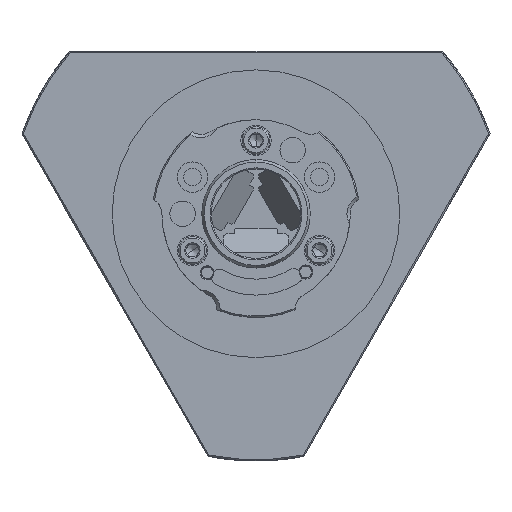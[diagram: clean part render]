
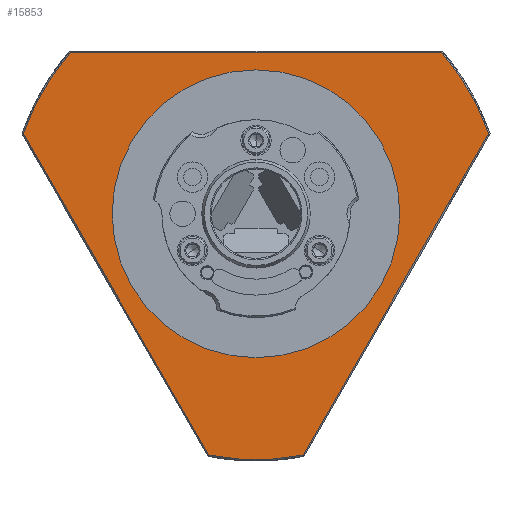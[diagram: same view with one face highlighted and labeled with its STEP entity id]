
A CAD part, front view. The second image highlights one B-rep face of the part: STEP entity #15853.
In plain terms, the highlighted planar face has unit normal (0, -1, 0).
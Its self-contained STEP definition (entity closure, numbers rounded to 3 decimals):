
#140 = CARTESIAN_POINT ( 'NONE',  ( -63.35, -24.5, 8.525 ) ) ;
#591 = CIRCLE ( 'NONE', #50512, 77.1 ) ;
#2203 = ORIENTED_EDGE ( 'NONE', *, *, #44710, .T. ) ;
#3235 = VERTEX_POINT ( 'NONE', #12110 ) ;
#4187 = DIRECTION ( 'NONE',  ( 0., 0., 1. ) ) ;
#4307 = EDGE_CURVE ( 'NONE', #39102, #49068, #13404, .T. ) ;
#5121 = CIRCLE ( 'NONE', #39866, 45.1 ) ;
#5229 = CARTESIAN_POINT ( 'NONE',  ( 63.35, -24.5, 8.525 ) ) ;
#5715 = EDGE_LOOP ( 'NONE', ( #28989, #7595, #30579, #2203, #22949, #34343 ) ) ;
#6118 = CIRCLE ( 'NONE', #20386, 77.1 ) ;
#6225 = DIRECTION ( 'NONE',  ( 0., 0., -1. ) ) ;
#6665 = EDGE_CURVE ( 'NONE', #50995, #3235, #5121, .T. ) ;
#6782 = FACE_OUTER_BOUND ( 'NONE', #5715, .T. ) ;
#7578 = DIRECTION ( 'NONE',  ( 0., 1., 0. ) ) ;
#7595 = ORIENTED_EDGE ( 'NONE', *, *, #41714, .T. ) ;
#8162 = EDGE_CURVE ( 'NONE', #50982, #47362, #6118, .T. ) ;
#8218 = LINE ( 'NONE', #24956, #29279 ) ;
#9538 = CARTESIAN_POINT ( 'NONE',  ( 72.907, -24.5, 25.079 ) ) ;
#9605 = LINE ( 'NONE', #140, #50747 ) ;
#10108 = PLANE ( 'NONE',  #38556 ) ;
#12053 = DIRECTION ( 'NONE',  ( 0., 0., 1. ) ) ;
#12110 = CARTESIAN_POINT ( 'NONE',  ( 0., -24.5, -45.1 ) ) ;
#12872 = DIRECTION ( 'NONE',  ( 0., 0., 1. ) ) ;
#13404 = CIRCLE ( 'NONE', #49080, 77.1 ) ;
#14215 = VERTEX_POINT ( 'NONE', #33377 ) ;
#15686 = DIRECTION ( 'NONE',  ( 0., 0., 1. ) ) ;
#15853 = ADVANCED_FACE ( 'NONE', ( #31581, #6782 ), #10108, .T. ) ;
#16480 = CARTESIAN_POINT ( 'NONE',  ( 0., -24.5, 0. ) ) ;
#17416 = DIRECTION ( 'NONE',  ( 0.5, 0., -0.866 ) ) ;
#17770 = AXIS2_PLACEMENT_3D ( 'NONE', #29428, #37003, #25238 ) ;
#19076 = CARTESIAN_POINT ( 'NONE',  ( 0., -24.5, 45.1 ) ) ;
#19609 = DIRECTION ( 'NONE',  ( 0., -1., 0. ) ) ;
#20386 = AXIS2_PLACEMENT_3D ( 'NONE', #25351, #42403, #4187 ) ;
#22249 = CIRCLE ( 'NONE', #17770, 45.1 ) ;
#22912 = VECTOR ( 'NONE', #43753, 1000. ) ;
#22949 = ORIENTED_EDGE ( 'NONE', *, *, #38906, .F. ) ;
#23350 = LINE ( 'NONE', #5229, #22912 ) ;
#24956 = CARTESIAN_POINT ( 'NONE',  ( 0., -24.5, 50.6 ) ) ;
#25238 = DIRECTION ( 'NONE',  ( 0., 0., 1. ) ) ;
#25351 = CARTESIAN_POINT ( 'NONE',  ( 0., -24.5, 0. ) ) ;
#26786 = DIRECTION ( 'NONE',  ( 0., 1., 0. ) ) ;
#27998 = CARTESIAN_POINT ( 'NONE',  ( 14.735, -24.5, -75.679 ) ) ;
#28989 = ORIENTED_EDGE ( 'NONE', *, *, #4307, .F. ) ;
#29279 = VECTOR ( 'NONE', #42002, 1000. ) ;
#29428 = CARTESIAN_POINT ( 'NONE',  ( 0., -24.5, 0. ) ) ;
#30579 = ORIENTED_EDGE ( 'NONE', *, *, #8162, .F. ) ;
#31054 = EDGE_CURVE ( 'NONE', #14215, #49068, #8218, .T. ) ;
#31581 = FACE_BOUND ( 'NONE', #50692, .T. ) ;
#32161 = CARTESIAN_POINT ( 'NONE',  ( 0., -24.5, 45.1 ) ) ;
#32463 = ORIENTED_EDGE ( 'NONE', *, *, #49678, .T. ) ;
#33246 = CARTESIAN_POINT ( 'NONE',  ( 0., -24.5, 0. ) ) ;
#33377 = CARTESIAN_POINT ( 'NONE',  ( 58.173, -24.5, 50.6 ) ) ;
#33754 = CARTESIAN_POINT ( 'NONE',  ( -14.735, -24.5, -75.679 ) ) ;
#34343 = ORIENTED_EDGE ( 'NONE', *, *, #31054, .T. ) ;
#37003 = DIRECTION ( 'NONE',  ( 0., 1., 0. ) ) ;
#37919 = CARTESIAN_POINT ( 'NONE',  ( -72.907, -24.5, 25.079 ) ) ;
#38556 = AXIS2_PLACEMENT_3D ( 'NONE', #32161, #19609, #6225 ) ;
#38793 = CARTESIAN_POINT ( 'NONE',  ( 0., -24.5, 0. ) ) ;
#38906 = EDGE_CURVE ( 'NONE', #14215, #40227, #591, .T. ) ;
#39102 = VERTEX_POINT ( 'NONE', #37919 ) ;
#39866 = AXIS2_PLACEMENT_3D ( 'NONE', #16480, #7578, #15686 ) ;
#40227 = VERTEX_POINT ( 'NONE', #9538 ) ;
#40302 = CARTESIAN_POINT ( 'NONE',  ( -58.173, -24.5, 50.6 ) ) ;
#41714 = EDGE_CURVE ( 'NONE', #39102, #47362, #9605, .T. ) ;
#42002 = DIRECTION ( 'NONE',  ( -1., 0., 0. ) ) ;
#42403 = DIRECTION ( 'NONE',  ( 0., 1., 0. ) ) ;
#43753 = DIRECTION ( 'NONE',  ( 0.5, 0., 0.866 ) ) ;
#44466 = ORIENTED_EDGE ( 'NONE', *, *, #6665, .T. ) ;
#44710 = EDGE_CURVE ( 'NONE', #50982, #40227, #23350, .T. ) ;
#47362 = VERTEX_POINT ( 'NONE', #33754 ) ;
#49068 = VERTEX_POINT ( 'NONE', #40302 ) ;
#49080 = AXIS2_PLACEMENT_3D ( 'NONE', #33246, #50282, #12053 ) ;
#49678 = EDGE_CURVE ( 'NONE', #3235, #50995, #22249, .T. ) ;
#50282 = DIRECTION ( 'NONE',  ( 0., 1., 0. ) ) ;
#50512 = AXIS2_PLACEMENT_3D ( 'NONE', #38793, #26786, #12872 ) ;
#50692 = EDGE_LOOP ( 'NONE', ( #44466, #32463 ) ) ;
#50747 = VECTOR ( 'NONE', #17416, 1000. ) ;
#50982 = VERTEX_POINT ( 'NONE', #27998 ) ;
#50995 = VERTEX_POINT ( 'NONE', #19076 ) ;
